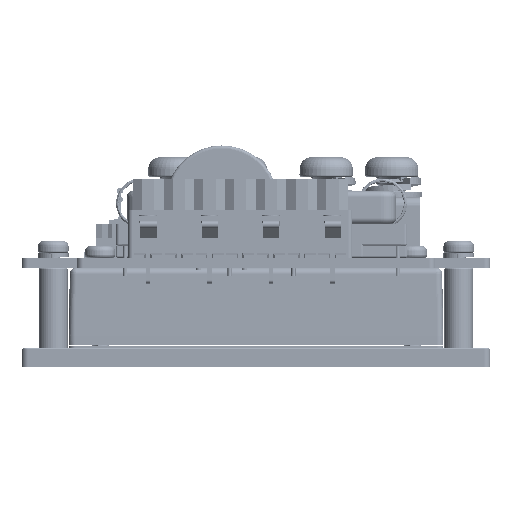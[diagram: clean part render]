
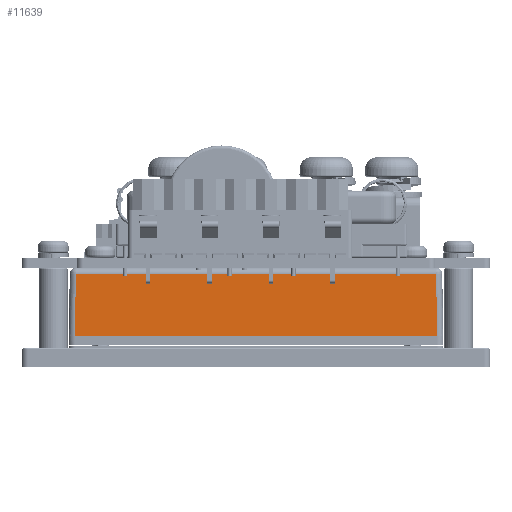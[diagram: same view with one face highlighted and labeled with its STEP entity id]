
A CAD part, left-side view. The second image highlights one B-rep face of the part: STEP entity #11639.
In plain terms, the highlighted planar face has unit normal (-1, 0, 0.018).
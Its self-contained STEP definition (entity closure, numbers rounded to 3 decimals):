
#317 = DIRECTION ( 'NONE',  ( 0., 1., 0. ) ) ;
#11513 = CARTESIAN_POINT ( 'NONE',  ( -18.617, -14.295, -12.7 ) ) ;
#11639 = ADVANCED_FACE ( 'NONE', ( #145614 ), #42798, .T. ) ;
#18023 = LINE ( 'NONE', #48235, #130865 ) ;
#18324 = CARTESIAN_POINT ( 'NONE',  ( -18.617, -14.295, -12.7 ) ) ;
#19746 = EDGE_CURVE ( 'NONE', #162752, #149799, #18023, .T. ) ;
#19943 = CARTESIAN_POINT ( 'NONE',  ( -18.441, 44.529, -2.583 ) ) ;
#24713 = DIRECTION ( 'NONE',  ( 0.017, 0., 1. ) ) ;
#32661 = CARTESIAN_POINT ( 'NONE',  ( -18.618, -14.295, -12.717 ) ) ;
#33575 = CARTESIAN_POINT ( 'NONE',  ( -18.441, -14.119, -2.583 ) ) ;
#41050 = EDGE_LOOP ( 'NONE', ( #54428, #150297, #190196, #97790, #102029 ) ) ;
#42798 = PLANE ( 'NONE',  #135645 ) ;
#42804 = AXIS2_PLACEMENT_3D ( 'NONE', #171456, #124091, #44565 ) ;
#44565 = DIRECTION ( 'NONE',  ( 0., -1., 0. ) ) ;
#48235 = CARTESIAN_POINT ( 'NONE',  ( -18.599, 44.687, -11.653 ) ) ;
#54428 = ORIENTED_EDGE ( 'NONE', *, *, #102762, .T. ) ;
#56762 = VECTOR ( 'NONE', #76731, 1000. ) ;
#59799 = EDGE_CURVE ( 'NONE', #194474, #142452, #153571, .T. ) ;
#61860 = DIRECTION ( 'NONE',  ( 0.017, 0.017, 1. ) ) ;
#72217 = VECTOR ( 'NONE', #61860, 1000. ) ;
#73505 = EDGE_CURVE ( 'NONE', #135580, #194474, #187637, .T. ) ;
#76731 = DIRECTION ( 'NONE',  ( 0., -1., 0. ) ) ;
#97790 = ORIENTED_EDGE ( 'NONE', *, *, #162252, .T. ) ;
#102029 = ORIENTED_EDGE ( 'NONE', *, *, #19746, .T. ) ;
#102762 = EDGE_CURVE ( 'NONE', #149799, #135580, #108963, .T. ) ;
#106135 = CARTESIAN_POINT ( 'NONE',  ( -18.441, 45.511, -2.583 ) ) ;
#108963 = LINE ( 'NONE', #138179, #56762 ) ;
#119039 = VECTOR ( 'NONE', #317, 1000. ) ;
#124091 = DIRECTION ( 'NONE',  ( 0., 0., 1. ) ) ;
#130865 = VECTOR ( 'NONE', #158020, 1000. ) ;
#132885 = CARTESIAN_POINT ( 'NONE',  ( -18.617, 44.705, -12.7 ) ) ;
#135580 = VERTEX_POINT ( 'NONE', #18324 ) ;
#135645 = AXIS2_PLACEMENT_3D ( 'NONE', #193983, #195947, #24713 ) ;
#138179 = CARTESIAN_POINT ( 'NONE',  ( -18.617, -15.295, -12.7 ) ) ;
#142452 = VERTEX_POINT ( 'NONE', #33575 ) ;
#145614 = FACE_OUTER_BOUND ( 'NONE', #41050, .T. ) ;
#149799 = VERTEX_POINT ( 'NONE', #132885 ) ;
#150297 = ORIENTED_EDGE ( 'NONE', *, *, #73505, .T. ) ;
#153470 = LINE ( 'NONE', #106135, #119039 ) ;
#153571 = LINE ( 'NONE', #32661, #72217 ) ;
#158020 = DIRECTION ( 'NONE',  ( -0.017, 0.017, -1. ) ) ;
#162252 = EDGE_CURVE ( 'NONE', #142452, #162752, #153470, .T. ) ;
#162752 = VERTEX_POINT ( 'NONE', #19943 ) ;
#171456 = CARTESIAN_POINT ( 'NONE',  ( -17.617, -14.295, -12.7 ) ) ;
#187637 = CIRCLE ( 'NONE', #42804, 1. ) ;
#190196 = ORIENTED_EDGE ( 'NONE', *, *, #59799, .T. ) ;
#193983 = CARTESIAN_POINT ( 'NONE',  ( -18.617, -15.295, -12.7 ) ) ;
#194474 = VERTEX_POINT ( 'NONE', #11513 ) ;
#195947 = DIRECTION ( 'NONE',  ( -1., 0., 0.017 ) ) ;
